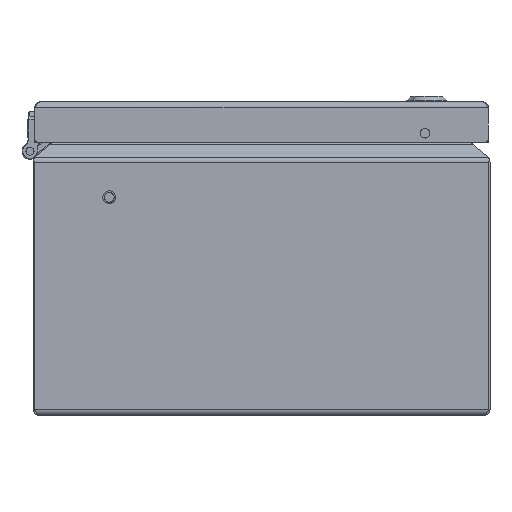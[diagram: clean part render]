
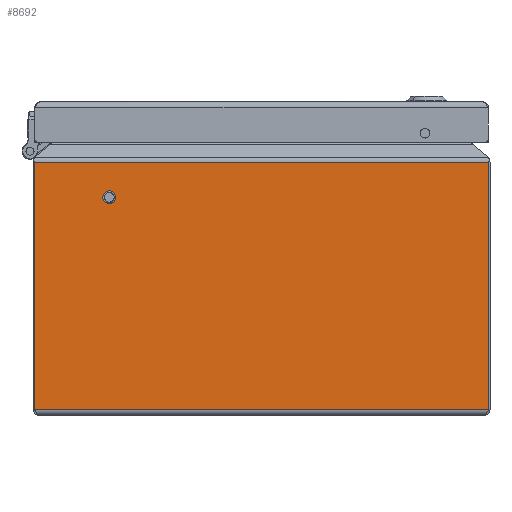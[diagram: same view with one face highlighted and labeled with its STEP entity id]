
A CAD part, front view. The second image highlights one B-rep face of the part: STEP entity #8692.
In plain terms, the highlighted planar face has unit normal (0, -1, 0).
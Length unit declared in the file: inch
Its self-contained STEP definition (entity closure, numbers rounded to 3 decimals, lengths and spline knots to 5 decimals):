
#406=DIRECTION('',(1.,0.,0.));
#407=VECTOR('',#406,8.958);
#408=CARTESIAN_POINT('',(-4.479,-6.,0.12));
#409=LINE('',#408,#407);
#3457=DIRECTION('',(0.,0.,1.));
#3458=VECTOR('',#3457,4.87309);
#3459=CARTESIAN_POINT('',(4.479,-6.,0.12));
#3460=LINE('',#3459,#3458);
#3464=DIRECTION('',(0.,0.,1.));
#3465=VECTOR('',#3464,4.87304);
#3466=CARTESIAN_POINT('',(-4.479,-6.,0.12));
#3467=LINE('',#3466,#3465);
#3471=DIRECTION('',(1.,0.,0.));
#3472=VECTOR('',#3471,8.95799);
#3473=CARTESIAN_POINT('',(-4.47899,-6.,
4.99304));
#3474=LINE('',#3473,#3472);
#3478=CARTESIAN_POINT('',(-3.,-6.,4.299));
#3479=DIRECTION('',(0.,-1.,0.));
#3480=DIRECTION('',(0.,0.,-1.));
#3481=AXIS2_PLACEMENT_3D('',#3478,#3479,#3480);
#3486=CARTESIAN_POINT('',(-3.,-6.,4.299));
#3487=DIRECTION('',(0.,-1.,0.));
#3488=DIRECTION('',(0.,0.,1.));
#3489=AXIS2_PLACEMENT_3D('',#3486,#3487,#3488);
#4619=CARTESIAN_POINT('',(-4.479,-6.,0.12));
#4620=CARTESIAN_POINT('',(-4.47899,-6.,
4.99304));
#4621=VERTEX_POINT('',#4619);
#4622=VERTEX_POINT('',#4620);
#4643=CARTESIAN_POINT('',(4.479,-6.,0.12));
#4644=CARTESIAN_POINT('',(4.479,-6.,4.99309));
#4645=VERTEX_POINT('',#4643);
#4646=VERTEX_POINT('',#4644);
#5108=CARTESIAN_POINT('',(-3.,-6.,4.20095));
#5109=CARTESIAN_POINT('',(-3.,-6.,4.39705));
#5110=VERTEX_POINT('',#5108);
#5111=VERTEX_POINT('',#5109);
#8673=CARTESIAN_POINT('',(-4.5,-6.,0.));
#8674=DIRECTION('',(0.,-1.,0.));
#8675=DIRECTION('',(1.,0.,0.));
#8676=AXIS2_PLACEMENT_3D('',#8673,#8674,#8675);
#8677=PLANE('',#8676);
#8678=ORIENTED_EDGE('',*,*,#8664,.F.);
#8679=ORIENTED_EDGE('',*,*,#5514,.F.);
#8681=ORIENTED_EDGE('',*,*,#8680,.T.);
#8683=ORIENTED_EDGE('',*,*,#8682,.T.);
#8684=EDGE_LOOP('',(#8678,#8679,#8681,#8683));
#8685=FACE_OUTER_BOUND('',#8684,.F.);
#8687=ORIENTED_EDGE('',*,*,#8686,.T.);
#8689=ORIENTED_EDGE('',*,*,#8688,.T.);
#8690=EDGE_LOOP('',(#8687,#8689));
#8691=FACE_BOUND('',#8690,.F.);
#3482=CIRCLE('',#3481,0.09805);
#3490=CIRCLE('',#3489,0.09805);
#5514=EDGE_CURVE('',#4621,#4645,#409,.T.);
#8664=EDGE_CURVE('',#4645,#4646,#3460,.T.);
#8680=EDGE_CURVE('',#4621,#4622,#3467,.T.);
#8682=EDGE_CURVE('',#4622,#4646,#3474,.T.);
#8686=EDGE_CURVE('',#5110,#5111,#3482,.T.);
#8688=EDGE_CURVE('',#5111,#5110,#3490,.T.);
#8692=ADVANCED_FACE('',(#8685,#8691),#8677,.T.);
